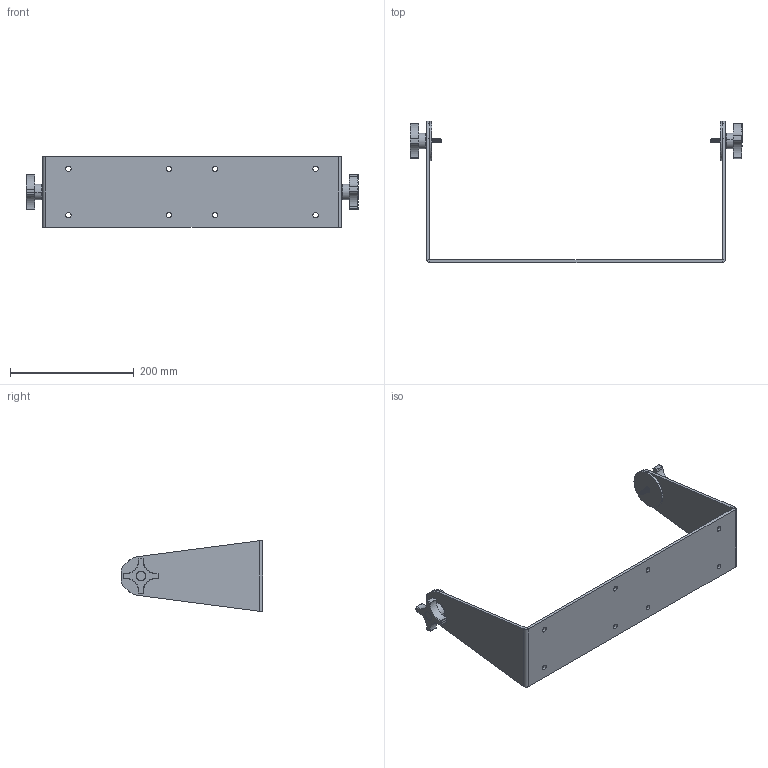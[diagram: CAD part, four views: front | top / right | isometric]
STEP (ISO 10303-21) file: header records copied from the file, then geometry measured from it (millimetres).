
FILE_DESCRIPTION (( 'STEP AP214' ), '1' );
FILE_NAME ('Wall Yoke for 19 inch Universal Mount Monitor, YW19.STEP', '2017-07-18T14:10:09', ( '' ), ( '' ), 'SwSTEP 2.0', 'SolidWorks 2017', '' );
FILE_SCHEMA (( 'AUTOMOTIVE_DESIGN' ));
Length unit declared in the file: inch
Products named in the file (5): Bushing, 30501; Knob, 30053; Rubber Washer, 10177; All Wall Yoke Configurations, YWxx_YW19; Wall Yoke for 19 inch Universal Mount Monitor, YW19
Assembly tree (7 placements, depth 2):
  Wall Yoke for 19 inch Universal Mount Monitor, YW19
    All Wall Yoke Configurations, YWxx_YW19
    Rubber Washer, 10177  x2
    Knob, 30053  x2
    Bushing, 30501  x2
Bounding box: 537.24 x 228.6 x 114.3 mm (x, y, z)
Volume: 506775.3 mm3; surface area: 222737 mm2
Topology: 7 solids, 7 shells, 568 faces, 1228 edges, 666 vertices
Faces by surface type: cylinder 262, cone 176, torus 48, sphere 40, plane 38, bspline 4
Entity records: 10971 total; most frequent: CARTESIAN_POINT 4020, DIRECTION 1495, ORIENTED_EDGE 1340, EDGE_CURVE 670, AXIS2_PLACEMENT_3D 612, VERTEX_POINT 371, EDGE_LOOP 339, ADVANCED_FACE 311
